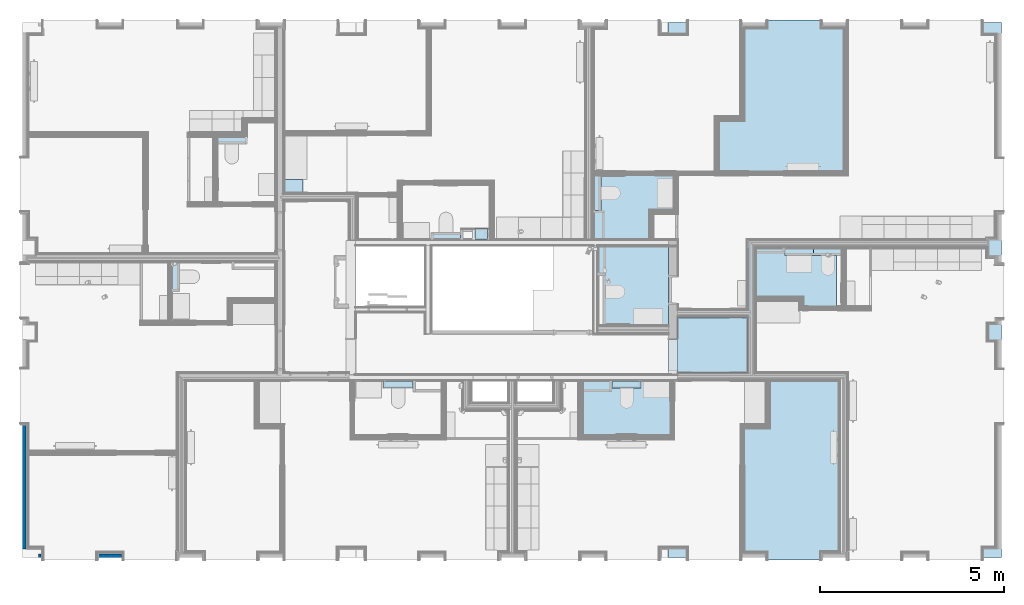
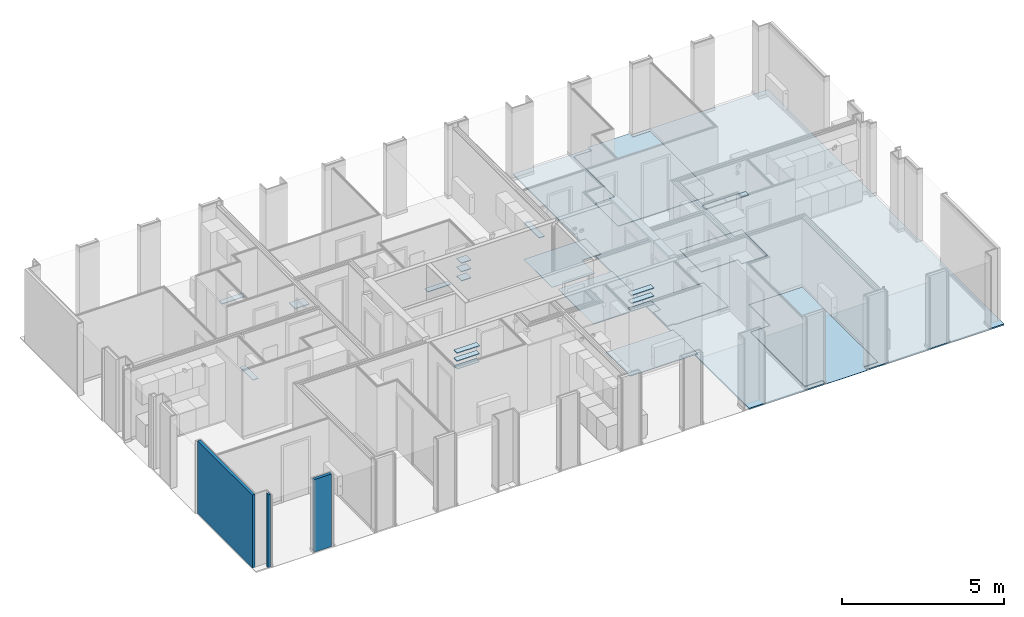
# One storey, part 2 of 82: 25 slabs, 3 walls.
"""IFC2X3 building model written with IfcOpenShell, lengths in metres."""

from ifc_helpers import new_model, entity, si_unit, converted_unit, derived_unit, money_unit, direction, frame, frame_2d, origin_with_axes, place, context, subcontext, project, spatial, rectangle, extrude, faceted_brep, material, layer, layer_set, layer_usage, type_object, element, save


model = new_model("IFC2X3")

# Units and contexts
model_context = context("Model", 3, precision=1e-05, world=origin_with_axes(), true_north=direction((0.0, 1.0)))
body_context = subcontext(model_context, "Body", "Model", "MODEL_VIEW", scale=1.0)
ifc_project = project(units=[si_unit("LENGTHUNIT", "METRE"), si_unit("AREAUNIT", "SQUARE_METRE"), si_unit("VOLUMEUNIT", "CUBIC_METRE"), si_unit("ABSORBEDDOSEUNIT", "GRAY"), si_unit("AMOUNTOFSUBSTANCEUNIT", "MOLE"), si_unit("DOSEEQUIVALENTUNIT", "SIEVERT"), si_unit("ELECTRICCAPACITANCEUNIT", "FARAD"), si_unit("ELECTRICCHARGEUNIT", "COULOMB"), si_unit("ELECTRICCONDUCTANCEUNIT", "SIEMENS"), si_unit("ELECTRICCURRENTUNIT", "AMPERE"), si_unit("ELECTRICRESISTANCEUNIT", "OHM"), si_unit("ELECTRICVOLTAGEUNIT", "VOLT"), si_unit("ENERGYUNIT", "JOULE"), si_unit("FORCEUNIT", "NEWTON"), si_unit("FREQUENCYUNIT", "HERTZ"), si_unit("ILLUMINANCEUNIT", "LUX"), si_unit("INDUCTANCEUNIT", "HENRY"), si_unit("LUMINOUSFLUXUNIT", "LUMEN"), si_unit("LUMINOUSINTENSITYUNIT", "CANDELA"), si_unit("MAGNETICFLUXDENSITYUNIT", "TESLA"), si_unit("MAGNETICFLUXUNIT", "WEBER"), si_unit("MASSUNIT", "GRAM"), converted_unit("PLANEANGLEUNIT", "degree", entity("IfcReal", 0.0174532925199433), si_unit("PLANEANGLEUNIT", "RADIAN"), dimensions=[0, 0, 0, 0, 0, 0, 0]), si_unit("POWERUNIT", "WATT"), si_unit("PRESSUREUNIT", "PASCAL"), si_unit("RADIOACTIVITYUNIT", "BECQUEREL"), si_unit("SOLIDANGLEUNIT", "STERADIAN"), si_unit("THERMODYNAMICTEMPERATUREUNIT", "KELVIN"), si_unit("TIMEUNIT", "SECOND"), derived_unit("ACCELERATIONUNIT", [(si_unit("LENGTHUNIT", "METRE"), 1), (si_unit("TIMEUNIT", "SECOND"), -2)]), derived_unit("ANGULARVELOCITYUNIT", [(converted_unit("PLANEANGLEUNIT", "degree", entity("IfcReal", 0.0174532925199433), si_unit("PLANEANGLEUNIT", "RADIAN"), dimensions=[0, 0, 0, 0, 0, 0, 0]), 1), (si_unit("TIMEUNIT", "SECOND"), -1)]), derived_unit("CURVATUREUNIT", [(converted_unit("PLANEANGLEUNIT", "degree", entity("IfcReal", 0.0174532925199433), si_unit("PLANEANGLEUNIT", "RADIAN"), dimensions=[0, 0, 0, 0, 0, 0, 0]), 1), (si_unit("LENGTHUNIT", "METRE"), -1)]), derived_unit("DYNAMICVISCOSITYUNIT", [(si_unit("PRESSUREUNIT", "PASCAL"), 1), (si_unit("TIMEUNIT", "SECOND"), 1)]), derived_unit("HEATFLUXDENSITYUNIT", [(si_unit("POWERUNIT", "WATT"), 1), (si_unit("LENGTHUNIT", "METRE"), -2)]), derived_unit("HEATINGVALUEUNIT", [(si_unit("ENERGYUNIT", "JOULE"), 1), (si_unit("MASSUNIT", "GRAM"), -1)]), derived_unit("INTEGERCOUNTRATEUNIT", [(si_unit("TIMEUNIT", "SECOND"), -1)]), derived_unit("IONCONCENTRATIONUNIT", [(si_unit("MASSUNIT", "GRAM"), 1), (si_unit("VOLUMEUNIT", "CUBIC_METRE"), -1)]), derived_unit("ISOTHERMALMOISTURECAPACITYUNIT", [(si_unit("VOLUMEUNIT", "CUBIC_METRE"), 1), (si_unit("MASSUNIT", "GRAM"), -1)]), derived_unit("KINEMATICVISCOSITYUNIT", [(si_unit("AREAUNIT", "SQUARE_METRE"), 1), (si_unit("TIMEUNIT", "SECOND"), -1)]), derived_unit("LINEARFORCEUNIT", [(si_unit("FORCEUNIT", "NEWTON"), 1), (si_unit("LENGTHUNIT", "METRE"), -1)]), derived_unit("LINEARMOMENTUNIT", [(si_unit("FORCEUNIT", "NEWTON"), 1), (si_unit("LENGTHUNIT", "METRE"), -1)]), derived_unit("LINEARSTIFFNESSUNIT", [(si_unit("FORCEUNIT", "NEWTON"), 1), (si_unit("LENGTHUNIT", "METRE"), -1)]), derived_unit("LINEARVELOCITYUNIT", [(si_unit("LENGTHUNIT", "METRE"), 1), (si_unit("TIMEUNIT", "SECOND"), -1)]), derived_unit("LUMINOUSINTENSITYDISTRIBUTIONUNIT", [(si_unit("LUMINOUSINTENSITYUNIT", "CANDELA"), 1), (si_unit("LUMINOUSFLUXUNIT", "LUMEN"), -1)]), derived_unit("MASSDENSITYUNIT", [(si_unit("MASSUNIT", "GRAM"), 1), (si_unit("VOLUMEUNIT", "CUBIC_METRE"), -1)]), derived_unit("MASSFLOWRATEUNIT", [(si_unit("MASSUNIT", "GRAM"), 1), (si_unit("TIMEUNIT", "SECOND"), -1)]), derived_unit("MASSPERLENGTHUNIT", [(si_unit("MASSUNIT", "GRAM"), 1), (si_unit("LENGTHUNIT", "METRE"), -1)]), derived_unit("MODULUSOFELASTICITYUNIT", [(si_unit("FORCEUNIT", "NEWTON"), 1), (si_unit("AREAUNIT", "SQUARE_METRE"), -1)]), derived_unit("MODULUSOFLINEARSUBGRADEREACTIONUNIT", [(si_unit("FORCEUNIT", "NEWTON"), 1), (si_unit("LENGTHUNIT", "METRE"), -2)]), derived_unit("MODULUSOFROTATIONALSUBGRADEREACTIONUNIT", [(si_unit("FORCEUNIT", "NEWTON"), 1), (si_unit("LENGTHUNIT", "METRE"), 1)]), derived_unit("MODULUSOFSUBGRADEREACTIONUNIT", [(si_unit("FORCEUNIT", "NEWTON"), 1), (si_unit("VOLUMEUNIT", "CUBIC_METRE"), -1)]), derived_unit("MOISTUREDIFFUSIVITYUNIT", [(si_unit("VOLUMEUNIT", "CUBIC_METRE"), 1), (si_unit("TIMEUNIT", "SECOND"), -1)]), derived_unit("MOLECULARWEIGHTUNIT", [(si_unit("MASSUNIT", "GRAM"), 1), (si_unit("AMOUNTOFSUBSTANCEUNIT", "MOLE"), -1)]), derived_unit("PLANARFORCEUNIT", [(si_unit("FORCEUNIT", "NEWTON"), 1), (si_unit("LENGTHUNIT", "METRE"), -2)]), derived_unit("ROTATIONALFREQUENCYUNIT", [(si_unit("TIMEUNIT", "SECOND"), -1)]), derived_unit("ROTATIONALMASSUNIT", [(si_unit("MASSUNIT", "GRAM"), 1), (si_unit("LENGTHUNIT", "METRE"), 2)]), derived_unit("ROTATIONALSTIFFNESSUNIT", [(si_unit("FORCEUNIT", "NEWTON"), 1), (si_unit("LENGTHUNIT", "METRE"), 1), (converted_unit("PLANEANGLEUNIT", "degree", entity("IfcReal", 0.0174532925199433), si_unit("PLANEANGLEUNIT", "RADIAN"), dimensions=[0, 0, 0, 0, 0, 0, 0]), -1)]), derived_unit("SECTIONAREAINTEGRALUNIT", [(si_unit("LENGTHUNIT", "METRE"), 5)]), derived_unit("SECTIONMODULUSUNIT", [(si_unit("LENGTHUNIT", "METRE"), 3)]), derived_unit("SHEARMODULUSUNIT", [(si_unit("FORCEUNIT", "NEWTON"), 1), (si_unit("AREAUNIT", "SQUARE_METRE"), -1)]), derived_unit("SOUNDPOWERUNIT", [(si_unit("ENERGYUNIT", "JOULE"), 1), (si_unit("TIMEUNIT", "SECOND"), -1)]), derived_unit("SPECIFICHEATCAPACITYUNIT", [(si_unit("FORCEUNIT", "NEWTON"), 1), (si_unit("MASSUNIT", "GRAM"), -1), (si_unit("THERMODYNAMICTEMPERATUREUNIT", "KELVIN"), -1)]), derived_unit("TEMPERATUREGRADIENTUNIT", [(si_unit("THERMODYNAMICTEMPERATUREUNIT", "KELVIN"), 1), (si_unit("LENGTHUNIT", "METRE"), -1)]), derived_unit("THERMALADMITTANCEUNIT", [(si_unit("POWERUNIT", "WATT"), 1), (si_unit("AREAUNIT", "SQUARE_METRE"), -1), (si_unit("THERMODYNAMICTEMPERATUREUNIT", "KELVIN"), -1)]), derived_unit("THERMALCONDUCTANCEUNIT", [(si_unit("POWERUNIT", "WATT"), 1), (si_unit("LENGTHUNIT", "METRE"), -1), (si_unit("THERMODYNAMICTEMPERATUREUNIT", "KELVIN"), -1)]), derived_unit("THERMALEXPANSIONCOEFFICIENTUNIT", [(si_unit("THERMODYNAMICTEMPERATUREUNIT", "KELVIN"), -1)]), derived_unit("THERMALRESISTANCEUNIT", [(si_unit("AREAUNIT", "SQUARE_METRE"), 1), (si_unit("POWERUNIT", "WATT"), -1)]), derived_unit("THERMALTRANSMITTANCEUNIT", [(si_unit("POWERUNIT", "WATT"), 1), (si_unit("AREAUNIT", "SQUARE_METRE"), -1), (si_unit("THERMODYNAMICTEMPERATUREUNIT", "KELVIN"), -1)]), derived_unit("TORQUEUNIT", [(si_unit("FORCEUNIT", "NEWTON"), 1), (si_unit("LENGTHUNIT", "METRE"), 1)]), derived_unit("VAPORPERMEABILITYUNIT", [(si_unit("MASSUNIT", "GRAM"), 1), (si_unit("TIMEUNIT", "SECOND"), -1)]), derived_unit("VOLUMETRICFLOWRATEUNIT", [(si_unit("VOLUMEUNIT", "CUBIC_METRE"), 1), (si_unit("TIMEUNIT", "SECOND"), -1)]), derived_unit("WARPINGCONSTANTUNIT", [(si_unit("LENGTHUNIT", "METRE"), 6)]), derived_unit("WARPINGMOMENTUNIT", [(si_unit("FORCEUNIT", "NEWTON"), 1), (si_unit("LENGTHUNIT", "METRE"), 2)]), money_unit("GBP")], contexts=[model_context])

# Site, building, storey
site_placement = place(None, origin_with_axes())
site = spatial("IfcSite", under=ifc_project, at=site_placement, Name="Site", CompositionType="ELEMENT")
building_placement = place(site_placement, origin_with_axes())
building = spatial("IfcBuilding", under=site, at=building_placement, Name="Building01", CompositionType="ELEMENT")
storey_placement = place(building_placement, frame((0.0, 0.0, 12.13), z_axis=(0.0, 0.0, 1.0), x_axis=(1.0, 0.0, 0.0)))
storey = spatial("IfcBuildingStorey", under=building, at=storey_placement, Name="3F", CompositionType="ELEMENT", Elevation=12.13)

# Slabs
ifc_material_1 = material(Name="A_BSUK_Ceramic_WallTiles")
slab_type = type_object("IfcSlabType", Name="A-FloorsSlabs A_BSUK_Slabs", PredefinedType="FLOOR")
for number, where, z_axis, x_axis, name in (
    (1, (17.0075, 4.779998, 1.375), (0.0, 0.0, 1.0), (1.0, 0.0, 0.0), "A-FloorsSlabs A_BSUK_Slabs"),
    (2, (17.0075, 4.779998, 1.675), (0.0, 0.0, 1.0), (1.0, 0.0, 0.0), "A-FloorsSlabs A_BSUK_Slabs"),
    (3, (17.0075, 4.779998, 1.975), (0.0, 0.0, 1.0), (1.0, 0.0, 0.0), "A-FloorsSlabs A_BSUK_Slabs"),
):
    element("IfcSlab", number, at=place(storey_placement, frame(where, z_axis=z_axis, x_axis=x_axis)), inside=storey, type_object=slab_type, material=ifc_material_1, Name=name, ObjectType="A-FloorsSlabs A_BSUK_Slabs", context=body_context, shape_type="Brep", body=[
        faceted_brep([(0.0, 0.200002, 0.0), (0.0, 0.200002, 0.025), (0.0, 0.0, 0.025), (0.0, 0.0, 0.0), (-0.8, 3e-06, 0.025), (-0.8, 3e-06, 0.0), (-0.799999, 0.200002, 0.025), (-0.799999, 0.200002, 0.0)], [[[0, 1, 2, 3]], [[3, 2, 4, 5]], [[5, 4, 6, 7]], [[7, 6, 1, 0]], [[1, 6, 4, 2]], [[3, 5, 7, 0]]]),
    ])
for number, where, z_axis, x_axis, name in (
    (4, (9.992536, 4.779998, 1.375), (0.0, 0.0, 1.0), (1.0, 0.0, 0.0), "A-FloorsSlabs A_BSUK_Slabs"),
    (5, (9.992536, 4.779998, 1.675), (0.0, 0.0, 1.0), (1.0, 0.0, 0.0), "A-FloorsSlabs A_BSUK_Slabs"),
    (6, (9.992536, 4.779998, 1.975), (0.0, 0.0, 1.0), (1.0, 0.0, 0.0), "A-FloorsSlabs A_BSUK_Slabs"),
):
    element("IfcSlab", number, at=place(storey_placement, frame(where, z_axis=z_axis, x_axis=x_axis)), inside=storey, type_object=slab_type, material=ifc_material_1, Name=name, ObjectType="A-FloorsSlabs A_BSUK_Slabs", context=body_context, shape_type="Brep", body=[
        faceted_brep([(0.0, 0.0, 0.0), (0.0, 0.0, 0.025), (0.0, 0.200002, 0.025), (0.0, 0.200002, 0.0), (0.8, 3e-06, 0.0), (0.8, 3e-06, 0.025), (0.799999, 0.200002, 0.0), (0.799999, 0.200002, 0.025)], [[[0, 1, 2, 3]], [[4, 5, 1, 0]], [[6, 7, 5, 4]], [[3, 2, 7, 6]], [[1, 5, 7, 2]], [[3, 6, 4, 0]]]),
    ])
slab_1_placement = place(storey_placement, frame((4.44073, 6.914372, 1.375), z_axis=(0.0, 0.0, 1.0), x_axis=(0.0, 1.0, 0.0)))
element("IfcSlab", 7, at=slab_1_placement, inside=storey, type_object=slab_type, material=ifc_material_1, Name="A-FloorsSlabs A_BSUK_Slabs", ObjectType="A-FloorsSlabs A_BSUK_Slabs", context=body_context, shape_type="Brep", body=[
    faceted_brep([(0.496298, 1e-06, 0.0), (0.496298, 1e-06, 0.025), (0.496298, 0.2, 0.025), (0.496298, 0.2, 0.0), (1.296298, 4e-06, 0.0), (1.296298, 4e-06, 0.025), (1.296298, 0.2, 0.0), (1.296298, 0.2, 0.025)], [[[0, 1, 2, 3]], [[4, 5, 1, 0]], [[6, 7, 5, 4]], [[3, 2, 7, 6]], [[1, 5, 7, 2]], [[3, 6, 4, 0]]]),
])
ifc_material_2 = material(Name="A_BSUK_InternalFinishes_FloorScreed")
placement = place(storey_placement, frame((0.0, 0.0, -12.13), z_axis=(0.0, 0.0, 1.0), x_axis=(1.0, 0.0, 0.0)))
element("IfcSlab", 8, at=placement, inside=storey, type_object=slab_type, material=ifc_material_2, Name="A-FloorsSlabs A_BSUK_Slabs", ObjectType="CompoundSlabLeaf", context=body_context, shape_type="Brep", body=[
    faceted_brep([(17.73, 14.73, 12.08), (17.73, 14.73, 12.13), (26.81, 14.73, 12.13), (26.81, 14.73, 12.08), (17.73, 0.17, 12.08), (17.73, 0.17, 12.13), (26.81, 0.17, 12.08), (26.81, 0.17, 12.13)], [[[0, 1, 2, 3]], [[4, 5, 1, 0]], [[6, 7, 5, 4]], [[3, 2, 7, 6]], [[1, 5, 7, 2]], [[3, 6, 4, 0]]]),
])
element("IfcSlab", 9, at=placement, inside=storey, type_object=slab_type, material=ifc_material_1, Name="A-FloorsSlabs A_BSUK_Slabs", ObjectType="CompoundSlabLeaf", context=body_context, shape_type="Brep", body=[
    faceted_brep([(12.088871, 9.02, 13.505), (12.088871, 9.02, 13.53), (12.088871, 8.82, 13.53), (12.088871, 8.82, 13.505), (11.288873, 9.019997, 13.505), (11.288873, 9.019997, 13.53), (11.288874, 8.82, 13.505), (11.288874, 8.82, 13.53)], [[[0, 1, 2, 3]], [[4, 5, 1, 0]], [[6, 7, 5, 4]], [[3, 2, 7, 6]], [[1, 5, 7, 2]], [[3, 6, 4, 0]]]),
])
element("IfcSlab", 10, at=placement, inside=storey, type_object=slab_type, material=ifc_material_1, Name="A-FloorsSlabs A_BSUK_Slabs", ObjectType="CompoundSlabLeaf", context=body_context, shape_type="Brep", body=[
    faceted_brep([(12.478585, 8.82, 13.505), (12.478585, 8.82, 13.53), (12.478585, 9.12, 13.53), (12.478585, 9.12, 13.505), (12.828585, 8.82, 13.505), (12.828585, 8.82, 13.53), (12.828585, 9.12, 13.505), (12.828585, 9.12, 13.53)], [[[0, 1, 2, 3]], [[4, 5, 1, 0]], [[6, 7, 5, 4]], [[3, 2, 7, 6]], [[1, 5, 7, 2]], [[3, 6, 4, 0]]]),
])
element("IfcSlab", 11, at=placement, inside=storey, type_object=slab_type, material=ifc_material_1, Name="A-FloorsSlabs A_BSUK_Slabs", ObjectType="CompoundSlabLeaf", context=body_context, shape_type="Brep", body=[
    faceted_brep([(12.478585, 8.82, 14.17), (12.478585, 8.82, 14.195), (12.478585, 9.12, 14.195), (12.478585, 9.12, 14.17), (12.828585, 8.82, 14.17), (12.828585, 8.82, 14.195), (12.828585, 9.12, 14.17), (12.828585, 9.12, 14.195)], [[[0, 1, 2, 3]], [[4, 5, 1, 0]], [[6, 7, 5, 4]], [[3, 2, 7, 6]], [[1, 5, 7, 2]], [[3, 6, 4, 0]]]),
])
element("IfcSlab", 12, at=placement, inside=storey, type_object=slab_type, material=ifc_material_1, Name="A-FloorsSlabs A_BSUK_Slabs", ObjectType="CompoundSlabLeaf", context=body_context, shape_type="Brep", body=[
    faceted_brep([(12.478585, 8.82, 13.849973), (12.478585, 8.82, 13.874973), (12.478585, 9.12, 13.874973), (12.478585, 9.12, 13.849973), (12.828585, 8.82, 13.849973), (12.828585, 8.82, 13.874973), (12.828585, 9.12, 13.849973), (12.828585, 9.12, 13.874973)], [[[0, 1, 2, 3]], [[4, 5, 1, 0]], [[6, 7, 5, 4]], [[3, 2, 7, 6]], [[1, 5, 7, 2]], [[3, 6, 4, 0]]]),
])
ifc_material_3 = material(Name="A_BSUK_ExpandedPolystyreneBoards")
element("IfcSlab", 13, at=placement, inside=storey, type_object=slab_type, material=ifc_material_3, Name="A-FloorsSlabs A_BSUK_Slabs", ObjectType="CompoundSlabLeaf", context=body_context, shape_type="Brep", body=[
    faceted_brep([(18.0, 6.69, 12.13), (18.0, 6.69, 12.133), (19.897661, 6.69, 12.133), (19.897661, 6.69, 12.13), (18.0, 5.205, 12.13), (18.0, 5.205, 12.133), (19.897661, 5.205, 12.13), (19.897661, 5.205, 12.133)], [[[0, 1, 2, 3]], [[4, 5, 1, 0]], [[6, 7, 5, 4]], [[3, 2, 7, 6]], [[1, 5, 7, 2]], [[3, 6, 4, 0]]]),
])
ifc_material_4 = material(Name="A_BSUK_Ceramic_FloorTiles")
element("IfcSlab", 14, at=placement, inside=storey, type_object=slab_type, material=ifc_material_4, Name="A-FloorsSlabs A_BSUK_Slabs", ObjectType="CompoundSlabLeaf", context=body_context, shape_type="Brep", body=[
    faceted_brep([(15.83, 6.475, 12.133), (15.83, 6.475, 12.145), (15.83, 8.65, 12.145), (15.83, 8.65, 12.133), (17.75, 6.475, 12.133), (17.75, 6.475, 12.145), (17.75, 8.65, 12.133), (17.75, 8.65, 12.145)], [[[0, 1, 2, 3]], [[4, 5, 1, 0]], [[6, 7, 5, 4]], [[3, 2, 7, 6]], [[1, 5, 7, 2]], [[3, 6, 4, 0]]]),
])
ifc_material_5 = material(Name="A_BSUK_Carpet-Pile")
element("IfcSlab", 15, at=placement, inside=storey, type_object=slab_type, material=ifc_material_5, Name="A-FloorsSlabs A_BSUK_Slabs", ObjectType="CompoundSlabLeaf", context=body_context, shape_type="Brep", body=[
    faceted_brep([(19.81, 12.064378, 12.133), (19.81, 12.064378, 12.145), (19.81, 14.582, 12.145), (19.81, 14.582, 12.133), (19.120284, 12.064378, 12.133), (19.120284, 12.064378, 12.145), (19.120284, 10.665, 12.133), (19.120284, 10.665, 12.145), (22.53, 10.665, 12.133), (22.53, 10.665, 12.145), (22.53, 14.582, 12.133), (22.53, 14.582, 12.145), (21.905, 14.582, 12.133), (21.905, 14.582, 12.145), (21.905, 14.8, 12.133), (21.905, 14.8, 12.145), (20.435, 14.8, 12.133), (20.435, 14.8, 12.145), (20.435, 14.582, 12.133), (20.435, 14.582, 12.145)], [[[0, 1, 2, 3]], [[4, 5, 1, 0]], [[6, 7, 5, 4]], [[8, 9, 7, 6]], [[10, 11, 9, 8]], [[12, 13, 11, 10]], [[14, 15, 13, 12]], [[16, 17, 15, 14]], [[18, 19, 17, 16]], [[3, 2, 19, 18]], [[1, 5, 7, 9, 11, 13, 15, 17, 19, 2]], [[3, 18, 16, 14, 12, 10, 8, 6, 4, 0]]]),
])
element("IfcSlab", 16, at=placement, inside=storey, type_object=slab_type, material=ifc_material_4, Name="A-FloorsSlabs A_BSUK_Slabs", ObjectType="CompoundSlabLeaf", context=body_context, shape_type="Brep", body=[
    faceted_brep([(20.122661, 8.595, 12.133), (20.122661, 8.595, 12.145), (22.326661, 8.595, 12.145), (22.326661, 8.595, 12.133), (20.122661, 7.25, 12.133), (20.122661, 7.25, 12.145), (21.417661, 7.25, 12.133), (21.417661, 7.25, 12.145), (21.417661, 7.0, 12.133), (21.417661, 7.0, 12.145), (22.326661, 7.0, 12.133), (22.326661, 7.0, 12.145)], [[[0, 1, 2, 3]], [[4, 5, 1, 0]], [[6, 7, 5, 4]], [[8, 9, 7, 6]], [[10, 11, 9, 8]], [[3, 2, 11, 10]], [[1, 5, 7, 9, 11, 2]], [[3, 10, 8, 6, 4, 0]]]),
])
element("IfcSlab", 17, at=placement, inside=storey, type_object=slab_type, material=ifc_material_4, Name="A-FloorsSlabs A_BSUK_Slabs", ObjectType="CompoundSlabLeaf", context=body_context, shape_type="Brep", body=[
    faceted_brep([(15.4075, 4.98, 12.133), (15.4075, 4.98, 12.145), (17.8075, 4.98, 12.145), (17.8075, 4.98, 12.133), (15.4075, 4.259428, 12.133), (15.4075, 4.259428, 12.145), (15.4075, 3.48, 12.133), (15.4075, 3.48, 12.145), (17.8075, 3.48, 12.133), (17.8075, 3.48, 12.145)], [[[0, 1, 2, 3]], [[4, 5, 1, 0]], [[6, 7, 5, 4]], [[8, 9, 7, 6]], [[3, 2, 9, 8]], [[1, 5, 7, 9, 2]], [[3, 8, 6, 4, 0]]]),
])
element("IfcSlab", 18, at=placement, inside=storey, type_object=slab_type, material=ifc_material_5, Name="A-FloorsSlabs A_BSUK_Slabs", ObjectType="CompoundSlabLeaf", context=body_context, shape_type="Brep", body=[
    faceted_brep([(20.51, 4.98, 12.133), (20.51, 4.98, 12.145), (22.4, 4.98, 12.145), (22.4, 4.98, 12.133), (20.51, 3.685, 12.133), (20.51, 3.685, 12.145), (19.81, 3.685, 12.133), (19.81, 3.685, 12.145), (19.81, 0.318, 12.133), (19.81, 0.318, 12.145), (20.435, 0.318, 12.133), (20.435, 0.318, 12.145), (20.435, 0.1, 12.133), (20.435, 0.1, 12.145), (21.905, 0.1, 12.133), (21.905, 0.1, 12.145), (21.905, 0.318, 12.133), (21.905, 0.318, 12.145), (22.4, 0.318, 12.133), (22.4, 0.318, 12.145)], [[[0, 1, 2, 3]], [[4, 5, 1, 0]], [[6, 7, 5, 4]], [[8, 9, 7, 6]], [[10, 11, 9, 8]], [[12, 13, 11, 10]], [[14, 15, 13, 12]], [[16, 17, 15, 14]], [[18, 19, 17, 16]], [[3, 2, 19, 18]], [[1, 5, 7, 9, 11, 13, 15, 17, 19, 2]], [[3, 18, 16, 14, 12, 10, 8, 6, 4, 0]]]),
])
element("IfcSlab", 19, at=placement, inside=storey, type_object=slab_type, material=ifc_material_5, Name="A-FloorsSlabs A_BSUK_Slabs", ObjectType="CompoundSlabLeaf", context=body_context, shape_type="Brep", body=[
    faceted_brep([(18.0, 6.705, 12.133), (18.0, 6.705, 12.145), (19.897661, 6.705, 12.145), (19.897661, 6.705, 12.133), (18.0, 6.100304, 12.133), (18.0, 6.100304, 12.145), (17.75, 6.100304, 12.133), (17.75, 6.100304, 12.145), (17.75, 5.25, 12.133), (17.75, 5.25, 12.145), (18.0, 5.25, 12.133), (18.0, 5.25, 12.145), (18.0, 5.205, 12.133), (18.0, 5.205, 12.145), (19.897661, 5.205, 12.133), (19.897661, 5.205, 12.145)], [[[0, 1, 2, 3]], [[4, 5, 1, 0]], [[6, 7, 5, 4]], [[8, 9, 7, 6]], [[10, 11, 9, 8]], [[12, 13, 11, 10]], [[14, 15, 13, 12]], [[3, 2, 15, 14]], [[1, 5, 7, 9, 11, 13, 15, 2]], [[3, 14, 12, 10, 8, 6, 4, 0]]]),
])
element("IfcSlab", 20, at=placement, inside=storey, type_object=slab_type, material=ifc_material_1, Name="A-FloorsSlabs A_BSUK_Slabs", ObjectType="CompoundSlabLeaf", context=body_context, shape_type="Brep", body=[
    faceted_brep([(15.908132, 9.62, 13.505), (15.908132, 9.62, 13.53), (15.708132, 9.62, 13.53), (15.708132, 9.62, 13.505), (15.908132, 10.57, 13.505), (15.908132, 10.57, 13.53), (15.708132, 10.57, 13.505), (15.708132, 10.57, 13.53)], [[[0, 1, 2, 3]], [[4, 5, 1, 0]], [[6, 7, 5, 4]], [[3, 2, 7, 6]], [[1, 5, 7, 2]], [[3, 6, 4, 0]]]),
])
element("IfcSlab", 21, at=placement, inside=storey, type_object=slab_type, material=ifc_material_4, Name="A-FloorsSlabs A_BSUK_Slabs", ObjectType="CompoundSlabLeaf", context=body_context, shape_type="Brep", body=[
    faceted_brep([(15.708132, 8.82, 12.133), (15.708132, 8.82, 12.145), (15.708132, 10.57, 12.145), (15.708132, 10.57, 12.133), (17.238132, 8.82, 12.133), (17.238132, 8.82, 12.145), (17.238132, 9.62, 12.133), (17.238132, 9.62, 12.145), (17.905, 9.62, 12.133), (17.905, 9.62, 12.145), (17.905, 10.57, 12.133), (17.905, 10.57, 12.145)], [[[0, 1, 2, 3]], [[4, 5, 1, 0]], [[6, 7, 5, 4]], [[8, 9, 7, 6]], [[10, 11, 9, 8]], [[3, 2, 11, 10]], [[1, 5, 7, 9, 11, 2]], [[3, 10, 8, 6, 4, 0]]]),
])
element("IfcSlab", 22, at=placement, inside=storey, type_object=slab_type, material=ifc_material_1, Name="A-FloorsSlabs A_BSUK_Slabs", ObjectType="CompoundSlabLeaf", context=body_context, shape_type="Brep", body=[
    faceted_brep([(5.464669, 11.43067, 13.505), (5.464669, 11.43067, 13.53), (5.464669, 11.63067, 13.53), (5.464669, 11.63067, 13.505), (6.264669, 11.430672, 13.505), (6.264669, 11.430672, 13.53), (6.264669, 11.63067, 13.505), (6.264669, 11.63067, 13.53)], [[[0, 1, 2, 3]], [[4, 5, 1, 0]], [[6, 7, 5, 4]], [[3, 2, 7, 6]], [[1, 5, 7, 2]], [[3, 6, 4, 0]]]),
])
element("IfcSlab", 23, at=placement, inside=storey, type_object=slab_type, material=ifc_material_1, Name="A-FloorsSlabs A_BSUK_Slabs", ObjectType="CompoundSlabLeaf", context=body_context, shape_type="Brep", body=[
    faceted_brep([(22.476661, 8.595, 13.505), (22.476661, 8.595, 13.53), (22.476661, 8.395001, 13.53), (22.476661, 8.395001, 13.505), (21.699661, 8.594999, 13.505), (21.699661, 8.594999, 13.53), (21.699661, 8.395003, 13.505), (21.699661, 8.395003, 13.53)], [[[0, 1, 2, 3]], [[4, 5, 1, 0]], [[6, 7, 5, 4]], [[3, 2, 7, 6]], [[1, 5, 7, 2]], [[3, 6, 4, 0]]]),
])
element("IfcSlab", 24, at=placement, inside=storey, type_object=slab_type, material=ifc_material_1, Name="A-FloorsSlabs A_BSUK_Slabs", ObjectType="CompoundSlabLeaf", context=body_context, shape_type="Brep", body=[
    faceted_brep([(21.699661, 8.595, 13.505), (21.699661, 8.595, 13.53), (21.699661, 8.395003, 13.53), (21.699661, 8.395003, 13.505), (20.922661, 8.595, 13.505), (20.922661, 8.595, 13.53), (20.922661, 8.394685, 13.505), (20.922661, 8.394685, 13.53)], [[[0, 1, 2, 3]], [[4, 5, 1, 0]], [[6, 7, 5, 4]], [[3, 2, 7, 6]], [[1, 5, 7, 2]], [[3, 6, 4, 0]]]),
])
element("IfcSlab", 25, at=placement, inside=storey, type_object=slab_type, material=ifc_material_1, Name="A-FloorsSlabs A_BSUK_Slabs", ObjectType="CompoundSlabLeaf", context=body_context, shape_type="Brep", body=[
    faceted_brep([(7.804669, 10.453124, 13.505), (7.804669, 10.453124, 13.53), (7.804669, 10.087704, 13.53), (7.804669, 10.087704, 13.505), (7.289669, 10.453124, 13.505), (7.289669, 10.453124, 13.53), (7.289669, 10.087704, 13.505), (7.289669, 10.087704, 13.53)], [[[0, 1, 2, 3]], [[4, 5, 1, 0]], [[6, 7, 5, 4]], [[3, 2, 7, 6]], [[1, 5, 7, 2]], [[3, 6, 4, 0]]]),
])

# Walls
ifc_material_6 = material(Name="A_BSUK_WallsExternal_Block")
ifc_layer = layer(ifc_material_6, 0.1, ventilated=False)
ifc_layer_set = layer_set([ifc_layer])
ifc_layer_usage = layer_usage(ifc_layer_set, "AXIS2", "POSITIVE", 0.0)
wall_type = type_object("IfcWallType", Name="A-Walls-ExternalBlock", PredefinedType="NOTDEFINED")
wall_1_placement = place(storey_placement, frame((0.17, 3.77418, 0.0), z_axis=(0.0, 0.0, 1.0), x_axis=(0.0, -1.0, 0.0)))
element("IfcWallStandardCase", 26, at=wall_1_placement, inside=storey, type_object=wall_type, material=ifc_layer_usage, Name="A-Walls-ExternalBlock", ObjectType="A-Walls-ExternalBlock", context=body_context, shape_type="SweptSolid", body=[
    extrude(rectangle(XDim=3.37418, YDim=0.1, at=frame_2d((1.68709, 0.05), x_axis=(1.0, 0.0))), origin_with_axes(), (0.0, 0.0, 1.0), 2.74),
])
wall_2_placement = place(storey_placement, frame((0.677, 0.27, 0.0), z_axis=(0.0, 0.0, 1.0), x_axis=(-1.0, 0.0, 0.0)))
element("IfcWallStandardCase", 27, at=wall_2_placement, inside=storey, type_object=wall_type, material=ifc_layer_usage, Name="A-Walls-ExternalBlock", ObjectType="A-Walls-ExternalBlock", context=body_context, shape_type="SweptSolid", body=[
    extrude(rectangle(XDim=0.077, YDim=0.1, at=frame_2d((0.0385, 0.05), x_axis=(1.0, 0.0))), origin_with_axes(), (0.0, 0.0, 1.0), 2.74),
])
wall_3_placement = place(storey_placement, frame((2.867, 0.27, 0.0), z_axis=(0.0, 0.0, 1.0), x_axis=(-1.0, 0.0, 0.0)))
element("IfcWallStandardCase", 28, at=wall_3_placement, inside=storey, type_object=wall_type, material=ifc_layer_usage, Name="A-Walls-ExternalBlock", ObjectType="A-Walls-ExternalBlock", context=body_context, shape_type="SweptSolid", body=[
    extrude(rectangle(XDim=0.624, YDim=0.1, at=frame_2d((0.312, 0.05), x_axis=(-1.0, 0.0))), origin_with_axes(), (0.0, 0.0, 1.0), 2.74),
])

save(model, "model.ifc")
